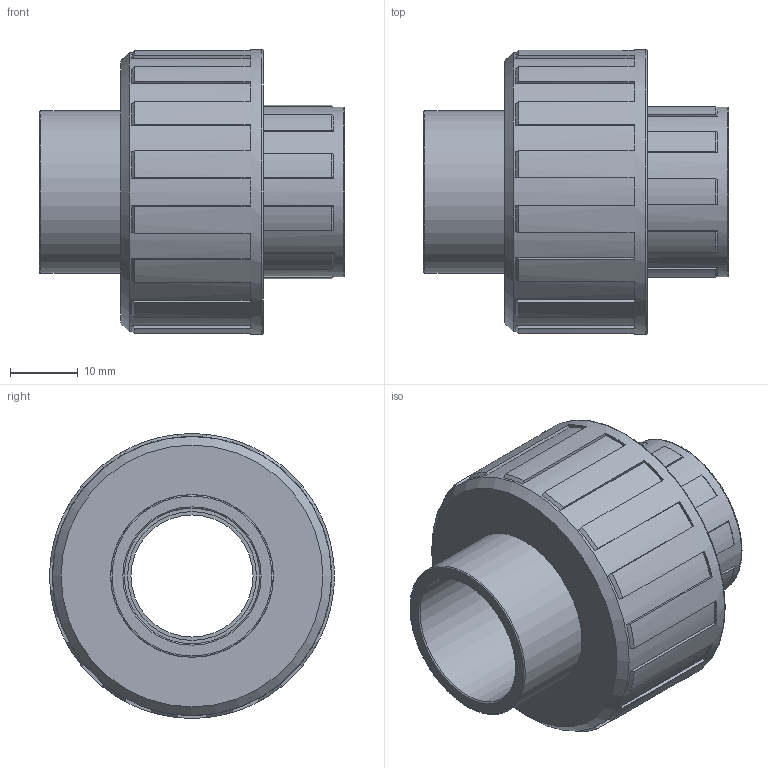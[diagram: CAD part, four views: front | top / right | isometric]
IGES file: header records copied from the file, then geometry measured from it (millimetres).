
Global section: file name: 050800020.ipt; native system: Autodesk Inventor 2015; preprocessor: unknown; author: Кирилл,,11,0; organization: 20171003.032032; date: 20171207.164900; units: millimetre
Bounding box: 45 x 42 x 42 mm (x, y, z)
Volume: 26444.5 mm3; surface area: 9749.2 mm2
Topology: 1 solids, 1 shells, 125 faces, 366 edges, 248 vertices
Faces by surface type: plane 75, cone 27, cylinder 14, revolution 9
Full cylindrical faces by diameter (mm): 24 x1, 25 x1, 41.16 x1, 42 x1
